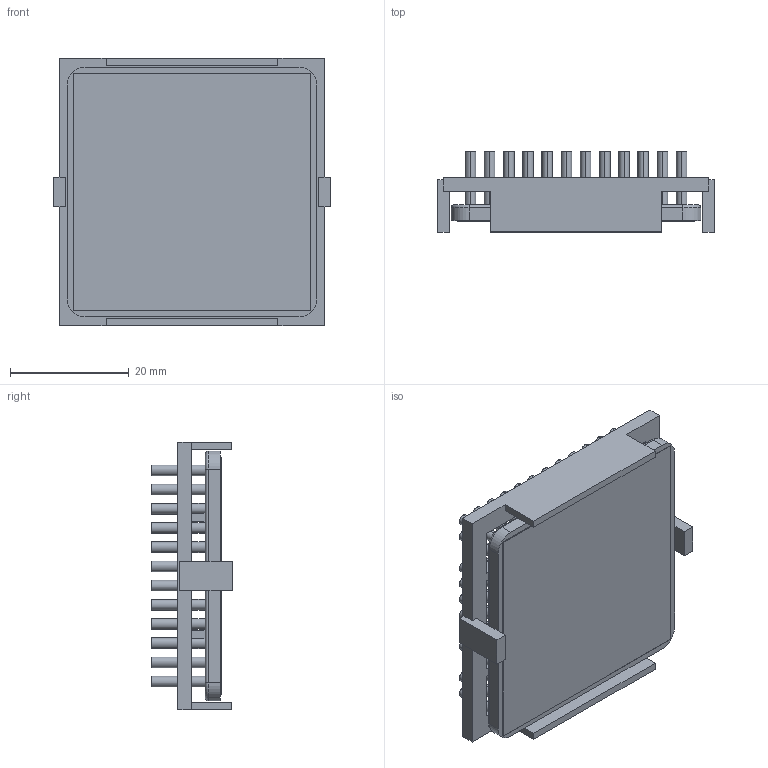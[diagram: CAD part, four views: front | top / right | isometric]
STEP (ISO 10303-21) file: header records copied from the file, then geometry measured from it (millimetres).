
FILE_DESCRIPTION (( 'STEP AP214' ), '1' );
FILE_NAME ('INM42.5002-12PCU-2.6BU.STEP', '2023-02-28T00:19:46', ( '' ), ( '' ), 'SwSTEP 2.0', 'SolidWorks 2020', '' );
FILE_SCHEMA (( 'AUTOMOTIVE_DESIGN' ));
Length unit declared in the file: inch
Products named in the file (1): INM42.5002-12PCU-2.6BU
Bounding box: 46.7 x 13.6 x 45.1 mm (x, y, z)
Volume: 10017.8 mm3; surface area: 17323.4 mm2
Topology: 3 solids, 3 shells, 486 faces, 1024 edges, 680 vertices
Faces by surface type: cylinder 280, plane 202, torus 4
Entity records: 19652 total; most frequent: DIRECTION 2562, CARTESIAN_POINT 2191, ORIENTED_EDGE 2048, AXIS2_PLACEMENT_3D 1051, EDGE_CURVE 1024, VERTEX_POINT 680, EDGE_LOOP 624, CIRCLE 564
